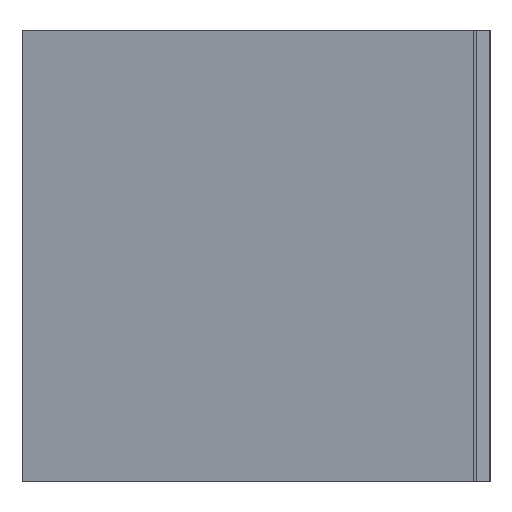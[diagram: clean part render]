
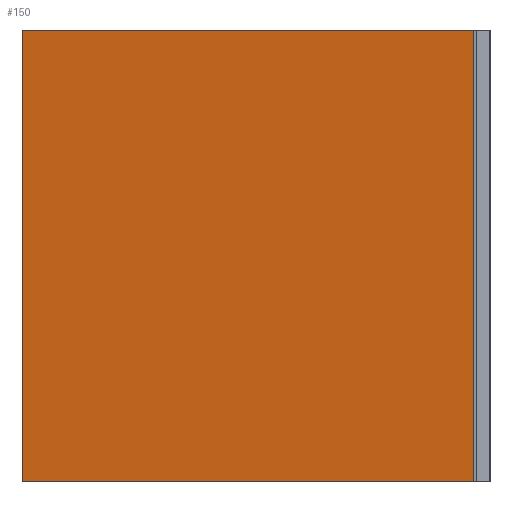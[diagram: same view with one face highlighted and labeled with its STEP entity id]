
A CAD part, left-side view. The second image highlights one B-rep face of the part: STEP entity #150.
In plain terms, the highlighted planar face has unit normal (0.985, -0.174, 0).
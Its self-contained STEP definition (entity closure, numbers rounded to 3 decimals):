
#98=CARTESIAN_POINT('Vertex',(20.,0.,0.)) ;
#101=CARTESIAN_POINT('Line Origine',(20.,0.,68.)) ;
#105=CARTESIAN_POINT('Vertex',(20.,0.,136.)) ;
#120=CARTESIAN_POINT('Axis2P3D Location',(20.,0.,0.)) ;
#125=CARTESIAN_POINT('Line Origine',(32.,68.,0.)) ;
#129=CARTESIAN_POINT('Vertex',(44.,136.,0.)) ;
#132=CARTESIAN_POINT('Line Origine',(44.,136.,68.)) ;
#136=CARTESIAN_POINT('Vertex',(44.,136.,136.)) ;
#139=CARTESIAN_POINT('Line Origine',(32.,68.,136.)) ;
#102=DIRECTION('Vector Direction',(0.,0.,1.)) ;
#121=DIRECTION('Axis2P3D Direction',(0.985,-0.174,0.)) ;
#122=DIRECTION('Axis2P3D XDirection',(0.174,0.985,0.)) ;
#126=DIRECTION('Vector Direction',(0.174,0.985,0.)) ;
#133=DIRECTION('Vector Direction',(0.,0.,1.)) ;
#140=DIRECTION('Vector Direction',(0.174,0.985,0.)) ;
#123=AXIS2_PLACEMENT_3D('Plane Axis2P3D',#120,#121,#122) ;
#145=ORIENTED_EDGE('',*,*,#107,.F.) ;
#146=ORIENTED_EDGE('',*,*,#131,.T.) ;
#147=ORIENTED_EDGE('',*,*,#138,.T.) ;
#148=ORIENTED_EDGE('',*,*,#143,.F.) ;
#103=VECTOR('Line Direction',#102,1.) ;
#127=VECTOR('Line Direction',#126,1.) ;
#134=VECTOR('Line Direction',#133,1.) ;
#141=VECTOR('Line Direction',#140,1.) ;
#150=ADVANCED_FACE('Extrude.1',(#149),#124,.T.) ;
#107=EDGE_CURVE('',#99,#106,#104,.T.) ;
#131=EDGE_CURVE('',#99,#130,#128,.T.) ;
#138=EDGE_CURVE('',#130,#137,#135,.T.) ;
#143=EDGE_CURVE('',#106,#137,#142,.T.) ;
#144=EDGE_LOOP('',(#145,#146,#147,#148)) ;
#149=FACE_OUTER_BOUND('',#144,.T.) ;
#104=LINE('Line',#101,#103) ;
#128=LINE('Line',#125,#127) ;
#135=LINE('Line',#132,#134) ;
#142=LINE('Line',#139,#141) ;
#124=PLANE('',#123) ;
#99=VERTEX_POINT('',#98) ;
#106=VERTEX_POINT('',#105) ;
#130=VERTEX_POINT('',#129) ;
#137=VERTEX_POINT('',#136) ;
